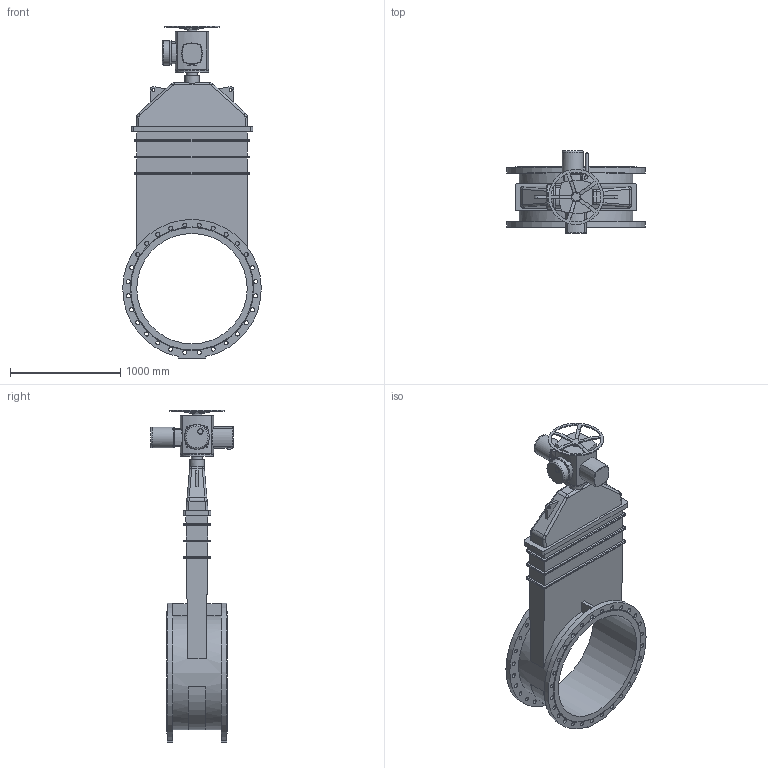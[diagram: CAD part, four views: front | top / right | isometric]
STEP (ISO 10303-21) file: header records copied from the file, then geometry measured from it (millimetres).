
FILE_DESCRIPTION(('STEP AP203'), '1');
FILE_NAME('青溻桄赅 47GVA DN1000 PN10+MT903.Z90', '', ('UNSPECIFIED'), ('UNSPECIFIED'), 'ASCON STEP Converter 1.6', 'ASCON Math Kernel', '');
FILE_SCHEMA(('CONFIG_CONTROL_DESIGN'));
Length unit declared in the file: millimetre
Bounding box: 1254.88 x 750 x 3006.5 mm (x, y, z)
Volume: 375175014.3 mm3; surface area: 10638636 mm2
Topology: 2 solids, 2 shells, 427 faces, 1049 edges, 666 vertices
Faces by surface type: cylinder 209, plane 154, bspline 34, torus 19, cone 11
Full cylindrical faces by diameter (mm): 12 x8, 13.835 x8, 18 x8, 20 x2, 25 x2, 29.22 x1, 30 x1, 37 x56, 45 x1, 50 x2, 60 x1, 90 x1, 100 x1, 130 x1, 190 x1, 200 x2, 220 x1, 300 x2, 500 x1, 1000 x1
Entity records: 19955 total; most frequent: CARTESIAN_POINT 6755, DIRECTION 1988, ORIENTED_EDGE 1822, EDGE_CURVE 911, AXIS2_PLACEMENT_3D 793, EDGE_LOOP 739, VERTEX_POINT 656, FACE_BOUND 493
